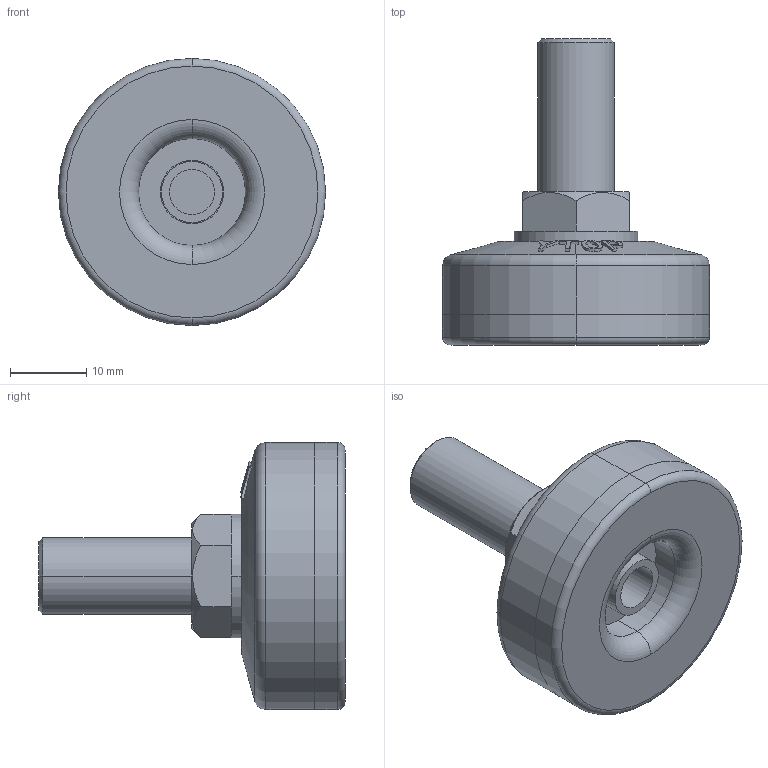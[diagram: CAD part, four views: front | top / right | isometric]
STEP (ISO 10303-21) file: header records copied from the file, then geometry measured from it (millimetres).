
FILE_DESCRIPTION (( 'STEP AP203' ), '1' );
FILE_NAME ('Q-35-1020-PA.STEP', '2020-09-11T06:34:22', ( '' ), ( '' ), 'SwSTEP 2.0', 'SolidWorks 2016', '' );
FILE_SCHEMA (( 'CONFIG_CONTROL_DESIGN' ));
Length unit declared in the file: millimetre
Products named in the file (4): S倰覃誹褐_35菁菜; 穩諉蹟裝M10炵蹈_M10X20; S倰覃誹褐_35裔赽; Q-35-1020-PA
Assembly tree (3 placements, depth 2):
  Q-35-1020-PA
    S倰覃誹褐_35菁菜
    S倰覃誹褐_35裔赽
    穩諉蹟裝M10炵蹈_M10X20
Bounding box: 35 x 40.1 x 35 mm (x, y, z)
Volume: 10058.2 mm3; surface area: 9271.8 mm2
Topology: 3 solids, 3 shells, 113 faces, 259 edges, 166 vertices
Faces by surface type: bspline 38, cylinder 26, plane 21, cone 16, torus 12
Entity records: 6649 total; most frequent: CARTESIAN_POINT 3954, ORIENTED_EDGE 518, DIRECTION 383, EDGE_CURVE 259, AXIS2_PLACEMENT_3D 167, VERTEX_POINT 166, EDGE_LOOP 131, B_SPLINE_CURVE_WITH_KNOTS 124
